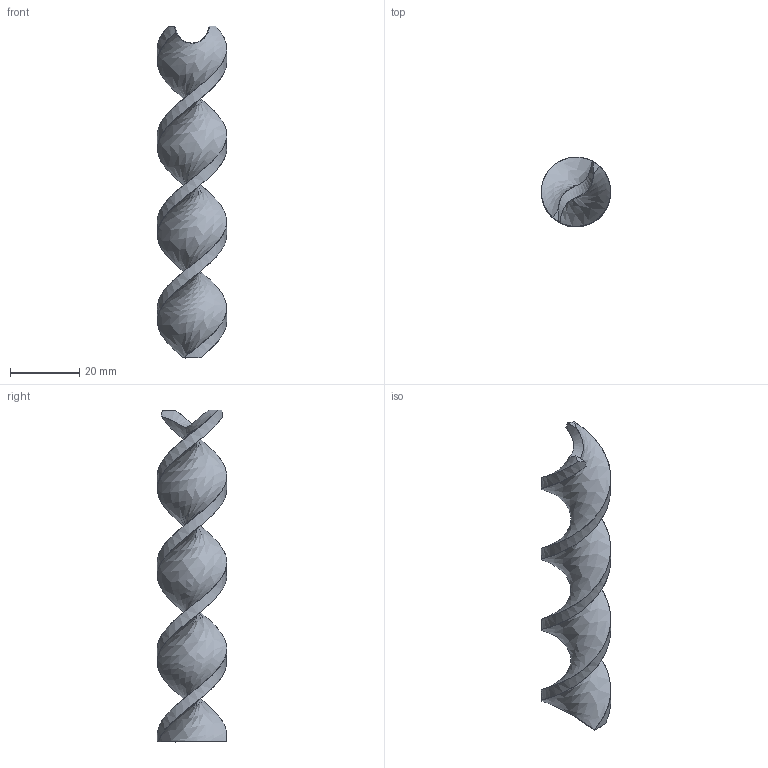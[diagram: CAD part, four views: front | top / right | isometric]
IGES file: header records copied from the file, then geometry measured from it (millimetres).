
Global section: file name: E:\UnigraphicsGraphicData\MISUMI_MOLD-PARTS\NX\3d_wrcbn20-96_00648_r00.igs; native system: NX V5.0; preprocessor: UGS NX IGES V5.0; author: MISUMI; date: 20101115.183659; units: millimetre
Bounding box: 20.08 x 20.08 x 96.03 mm (x, y, z)
Surface area: 5544.2 mm2 (no closed solid volume)
Topology: 0 solids, 0 shells, 8 faces, 56 edges, 56 vertices
Faces by surface type: bspline 8
